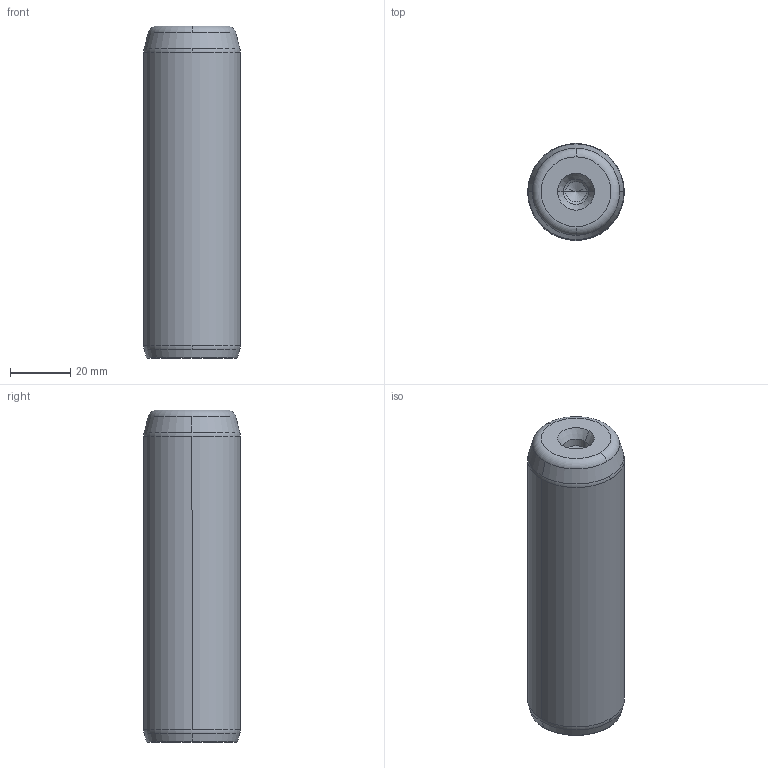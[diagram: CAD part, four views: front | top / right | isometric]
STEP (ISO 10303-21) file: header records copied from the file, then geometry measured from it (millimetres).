
FILE_DESCRIPTION((''),'2;1');
FILE_NAME('P10_032_110.stp','2008-12-23T15:02:48',(''),(''),'Mechanical Desktop 2009','Mechanical Desktop 2009',', , ');
FILE_SCHEMA(('CONFIG_CONTROL_DESIGN'));
Length unit declared in the file: millimetre
Products named in the file (5): Product; ProductAA; blmdl1; ProductA; blmdl1A
Assembly tree (2 placements, depth 3):
  Product
    ProductAA
      blmdl1
  ProductA
  blmdl1A
Bounding box: 32 x 32 x 110 mm (x, y, z)
Volume: 86242.6 mm3; surface area: 12814.3 mm2
Topology: 1 solids, 1 shells, 26 faces, 66 edges, 41 vertices
Faces by surface type: cone 10, torus 8, cylinder 6, plane 2
Entity records: 1012 total; most frequent: DIRECTION 170, CARTESIAN_POINT 134, ORIENTED_EDGE 128, AXIS2_PLACEMENT_3D 77, EDGE_CURVE 64, CIRCLE 48, VERTEX_POINT 41, EDGE_LOOP 27
